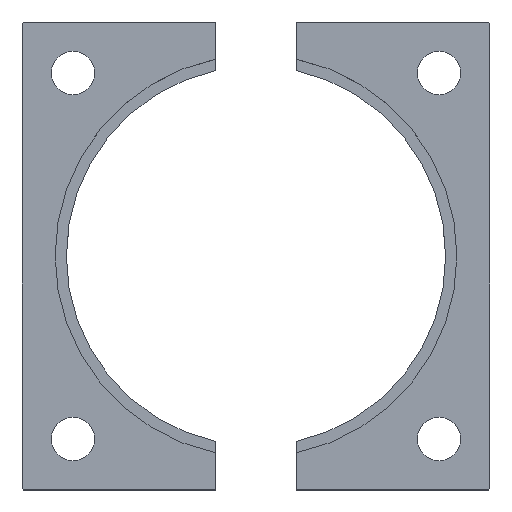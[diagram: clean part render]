
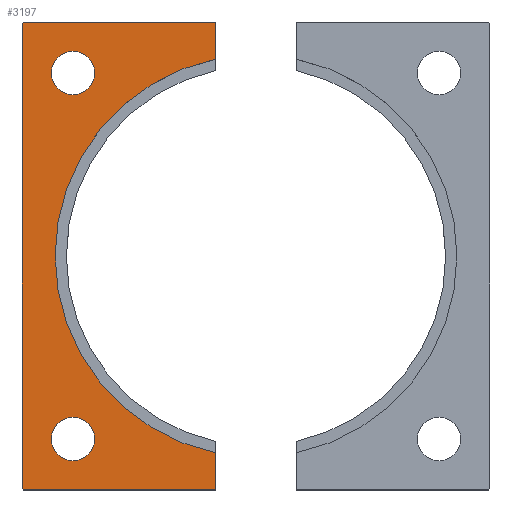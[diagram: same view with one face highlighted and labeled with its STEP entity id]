
A CAD part, top view. The second image highlights one B-rep face of the part: STEP entity #3197.
In plain terms, the highlighted planar face has unit normal (0, 0, 1).
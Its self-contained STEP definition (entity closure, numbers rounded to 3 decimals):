
#233=FACE_BOUND('',#538,.T.);
#234=FACE_BOUND('',#539,.T.);
#256=PLANE('',#3401);
#357=FACE_OUTER_BOUND('',#537,.T.);
#537=EDGE_LOOP('',(#2223,#2224,#2225,#2226,#2227,#2228,#2229,#2230));
#538=EDGE_LOOP('',(#2231));
#539=EDGE_LOOP('',(#2232));
#738=CIRCLE('',#3398,60.1);
#740=CIRCLE('',#3402,6.5);
#741=CIRCLE('',#3403,6.5);
#757=LINE('',#4114,#1083);
#758=LINE('',#4116,#1084);
#759=LINE('',#4118,#1085);
#760=LINE('',#4120,#1086);
#761=LINE('',#4122,#1087);
#762=LINE('',#4124,#1088);
#763=LINE('',#4125,#1089);
#1083=VECTOR('',#3538,10.);
#1084=VECTOR('',#3539,10.);
#1085=VECTOR('',#3540,10.);
#1086=VECTOR('',#3541,10.);
#1087=VECTOR('',#3542,10.);
#1088=VECTOR('',#3543,10.);
#1089=VECTOR('',#3544,10.);
#1406=VERTEX_POINT('',#4099);
#1408=VERTEX_POINT('',#4103);
#1411=VERTEX_POINT('',#4113);
#1412=VERTEX_POINT('',#4115);
#1413=VERTEX_POINT('',#4117);
#1414=VERTEX_POINT('',#4119);
#1415=VERTEX_POINT('',#4121);
#1416=VERTEX_POINT('',#4123);
#1417=VERTEX_POINT('',#4126);
#1418=VERTEX_POINT('',#4128);
#1732=EDGE_CURVE('',#1406,#1408,#738,.T.);
#1736=EDGE_CURVE('',#1411,#1408,#757,.T.);
#1737=EDGE_CURVE('',#1412,#1411,#758,.T.);
#1738=EDGE_CURVE('',#1413,#1412,#759,.T.);
#1739=EDGE_CURVE('',#1414,#1413,#760,.T.);
#1740=EDGE_CURVE('',#1415,#1414,#761,.T.);
#1741=EDGE_CURVE('',#1416,#1415,#762,.T.);
#1742=EDGE_CURVE('',#1406,#1416,#763,.T.);
#1743=EDGE_CURVE('',#1417,#1417,#740,.T.);
#1744=EDGE_CURVE('',#1418,#1418,#741,.T.);
#2223=ORIENTED_EDGE('',*,*,#1732,.T.);
#2224=ORIENTED_EDGE('',*,*,#1736,.F.);
#2225=ORIENTED_EDGE('',*,*,#1737,.F.);
#2226=ORIENTED_EDGE('',*,*,#1738,.F.);
#2227=ORIENTED_EDGE('',*,*,#1739,.F.);
#2228=ORIENTED_EDGE('',*,*,#1740,.F.);
#2229=ORIENTED_EDGE('',*,*,#1741,.F.);
#2230=ORIENTED_EDGE('',*,*,#1742,.F.);
#2231=ORIENTED_EDGE('',*,*,#1743,.T.);
#2232=ORIENTED_EDGE('',*,*,#1744,.T.);
#3197=ADVANCED_FACE('',(#357,#233,#234),#256,.T.);
#3398=AXIS2_PLACEMENT_3D('',#4105,#3528,#3529);
#3401=AXIS2_PLACEMENT_3D('',#4112,#3536,#3537);
#3402=AXIS2_PLACEMENT_3D('',#4127,#3545,#3546);
#3403=AXIS2_PLACEMENT_3D('',#4129,#3547,#3548);
#3528=DIRECTION('center_axis',(0.,0.,-1.));
#3529=DIRECTION('ref_axis',(-1.,0.,0.));
#3536=DIRECTION('center_axis',(0.,0.,1.));
#3537=DIRECTION('ref_axis',(1.,0.,0.));
#3538=DIRECTION('',(0.,-1.,0.));
#3539=DIRECTION('',(1.,0.,0.));
#3540=DIRECTION('',(0.707,0.707,0.));
#3541=DIRECTION('',(0.,1.,0.));
#3542=DIRECTION('',(-0.707,0.707,0.));
#3543=DIRECTION('',(-1.,0.,0.));
#3544=DIRECTION('',(0.,-1.,0.));
#3545=DIRECTION('center_axis',(0.,0.,-1.));
#3546=DIRECTION('ref_axis',(-1.,0.,0.));
#3547=DIRECTION('center_axis',(0.,0.,-1.));
#3548=DIRECTION('ref_axis',(-1.,0.,0.));
#4099=CARTESIAN_POINT('',(-12.,-58.89,12.));
#4103=CARTESIAN_POINT('',(-12.,58.89,12.));
#4105=CARTESIAN_POINT('Origin',(0.,0.,12.));
#4112=CARTESIAN_POINT('Origin',(-40.957,0.,12.));
#4113=CARTESIAN_POINT('',(-12.,70.,12.));
#4114=CARTESIAN_POINT('',(-12.,-70.,12.));
#4115=CARTESIAN_POINT('',(-69.5,70.,12.));
#4116=CARTESIAN_POINT('',(-12.,70.,12.));
#4117=CARTESIAN_POINT('',(-70.,69.5,12.));
#4118=CARTESIAN_POINT('',(-69.5,70.,12.));
#4119=CARTESIAN_POINT('',(-70.,-69.5,12.));
#4120=CARTESIAN_POINT('',(-70.,69.5,12.));
#4121=CARTESIAN_POINT('',(-69.5,-70.,12.));
#4122=CARTESIAN_POINT('',(-70.,-69.5,12.));
#4123=CARTESIAN_POINT('',(-12.,-70.,12.));
#4124=CARTESIAN_POINT('',(-69.5,-70.,12.));
#4125=CARTESIAN_POINT('',(-12.,-70.,12.));
#4126=CARTESIAN_POINT('',(-48.25,-54.75,12.));
#4127=CARTESIAN_POINT('Origin',(-54.75,-54.75,12.));
#4128=CARTESIAN_POINT('',(-48.25,54.75,12.));
#4129=CARTESIAN_POINT('Origin',(-54.75,54.75,12.));
